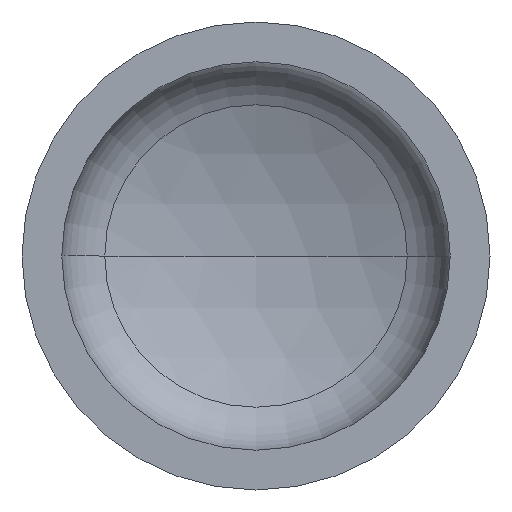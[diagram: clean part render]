
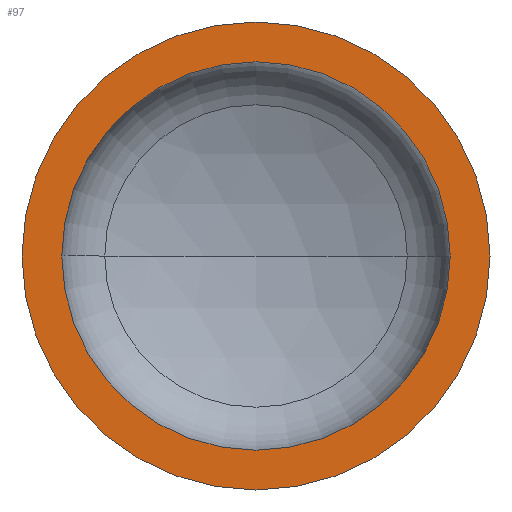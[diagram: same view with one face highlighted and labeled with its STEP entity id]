
A CAD part, front view. The second image highlights one B-rep face of the part: STEP entity #97.
In plain terms, the highlighted planar face has unit normal (0, -1, 0).
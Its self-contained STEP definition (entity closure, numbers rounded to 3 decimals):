
#40 = VERTEX_POINT ( 'NONE', #284 ) ;
#49 = AXIS2_PLACEMENT_3D ( 'NONE', #79, #95, #98 ) ;
#53 = CIRCLE ( 'NONE', #90, 498. ) ;
#54 = ORIENTED_EDGE ( 'NONE', *, *, #347, .T. ) ;
#73 = CIRCLE ( 'NONE', #96, 600. ) ;
#79 = CARTESIAN_POINT ( 'NONE',  ( 0., 0., 0. ) ) ;
#81 = AXIS2_PLACEMENT_3D ( 'NONE', #178, #180, #182 ) ;
#82 = EDGE_LOOP ( 'NONE', ( #105, #169 ) ) ;
#90 = AXIS2_PLACEMENT_3D ( 'NONE', #219, #207, #213 ) ;
#95 = DIRECTION ( 'NONE',  ( 0., -1., 0. ) ) ;
#96 = AXIS2_PLACEMENT_3D ( 'NONE', #298, #296, #293 ) ;
#97 = ADVANCED_FACE ( 'NONE', ( #393, #231 ), #240, .F. ) ;
#98 = DIRECTION ( 'NONE',  ( 1., 0., 0. ) ) ;
#102 = AXIS2_PLACEMENT_3D ( 'NONE', #248, #223, #220 ) ;
#105 = ORIENTED_EDGE ( 'NONE', *, *, #189, .F. ) ;
#131 = VERTEX_POINT ( 'NONE', #243 ) ;
#160 = VERTEX_POINT ( 'NONE', #346 ) ;
#167 = EDGE_CURVE ( 'NONE', #227, #160, #73, .T. ) ;
#169 = ORIENTED_EDGE ( 'NONE', *, *, #210, .F. ) ;
#178 = CARTESIAN_POINT ( 'NONE',  ( 0., 0., 0. ) ) ;
#180 = DIRECTION ( 'NONE',  ( 0., -1., 0. ) ) ;
#182 = DIRECTION ( 'NONE',  ( 1., 0., 0. ) ) ;
#189 = EDGE_CURVE ( 'NONE', #40, #131, #53, .T. ) ;
#207 = DIRECTION ( 'NONE',  ( 0., -1., 0. ) ) ;
#210 = EDGE_CURVE ( 'NONE', #131, #40, #257, .T. ) ;
#213 = DIRECTION ( 'NONE',  ( 1., 0., 0. ) ) ;
#219 = CARTESIAN_POINT ( 'NONE',  ( 0., 0., 0. ) ) ;
#220 = DIRECTION ( 'NONE',  ( -1., 0., 0. ) ) ;
#223 = DIRECTION ( 'NONE',  ( 0., 1., 0. ) ) ;
#227 = VERTEX_POINT ( 'NONE', #299 ) ;
#231 = FACE_OUTER_BOUND ( 'NONE', #407, .T. ) ;
#240 = PLANE ( 'NONE',  #102 ) ;
#243 = CARTESIAN_POINT ( 'NONE',  ( -498., 0., 0. ) ) ;
#248 = CARTESIAN_POINT ( 'NONE',  ( -600., 0., 0. ) ) ;
#257 = CIRCLE ( 'NONE', #81, 498. ) ;
#284 = CARTESIAN_POINT ( 'NONE',  ( 498., 0., 0. ) ) ;
#293 = DIRECTION ( 'NONE',  ( 1., 0., 0. ) ) ;
#296 = DIRECTION ( 'NONE',  ( 0., -1., 0. ) ) ;
#298 = CARTESIAN_POINT ( 'NONE',  ( 0., 0., 0. ) ) ;
#299 = CARTESIAN_POINT ( 'NONE',  ( -600., 0., 0. ) ) ;
#304 = CIRCLE ( 'NONE', #49, 600. ) ;
#345 = ORIENTED_EDGE ( 'NONE', *, *, #167, .T. ) ;
#346 = CARTESIAN_POINT ( 'NONE',  ( 600., 0., 0. ) ) ;
#347 = EDGE_CURVE ( 'NONE', #160, #227, #304, .T. ) ;
#393 = FACE_BOUND ( 'NONE', #82, .T. ) ;
#407 = EDGE_LOOP ( 'NONE', ( #54, #345 ) ) ;
